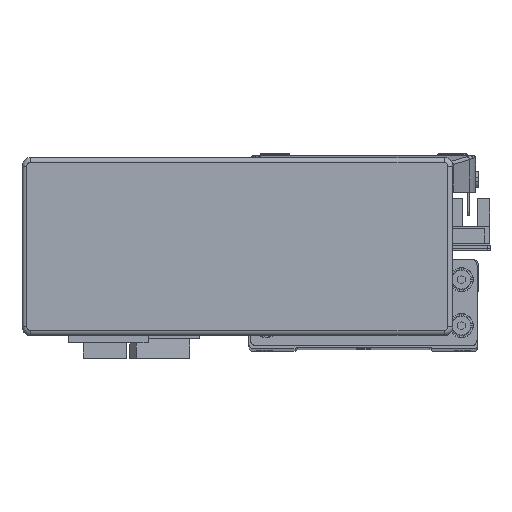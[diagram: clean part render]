
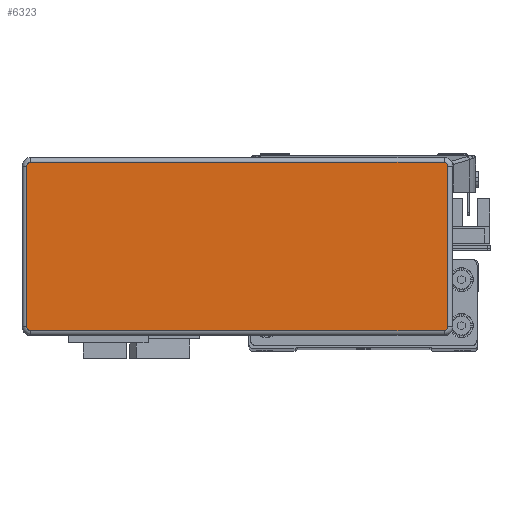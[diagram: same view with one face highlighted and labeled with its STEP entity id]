
A CAD part, top view. The second image highlights one B-rep face of the part: STEP entity #6323.
In plain terms, the highlighted planar face has unit normal (0, 0, 1) as drawn and (0, 0, -1) by its records, which use the part's own axes.
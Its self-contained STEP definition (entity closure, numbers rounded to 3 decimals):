
#3992 = AXIS2_PLACEMENT_3D ( 'NONE', #9674, #9667, #9664 ) ;
#6323 = ADVANCED_FACE ( 'NONE', ( #14448 ), #9675, .F. ) ;
#9664 = DIRECTION ( 'NONE',  ( 1., 0., 0. ) ) ;
#9667 = DIRECTION ( 'NONE',  ( 0., 0., 1. ) ) ;
#9674 = CARTESIAN_POINT ( 'NONE',  ( 71.995, -27.995, -32.2 ) ) ;
#9675 = PLANE ( 'NONE',  #3992 ) ;
#14448 = FACE_OUTER_BOUND ( 'NONE', #24002, .T. ) ;
#16066 = CARTESIAN_POINT ( 'NONE',  ( 73.295, -27.995, -32.2 ) ) ;
#16088 = DIRECTION ( 'NONE',  ( 0., -1., 0. ) ) ;
#16117 = CARTESIAN_POINT ( 'NONE',  ( -73.295, -27.995, -32.2 ) ) ;
#16131 = CARTESIAN_POINT ( 'NONE',  ( 71.995, -27.995, -32.2 ) ) ;
#16134 = DIRECTION ( 'NONE',  ( 0., 0., -1. ) ) ;
#16139 = DIRECTION ( 'NONE',  ( 1., 0., 0. ) ) ;
#16146 = DIRECTION ( 'NONE',  ( 0., 1., 0. ) ) ;
#16152 = DIRECTION ( 'NONE',  ( 0., 0., -1. ) ) ;
#16157 = DIRECTION ( 'NONE',  ( 0., 0., -1. ) ) ;
#16165 = CARTESIAN_POINT ( 'NONE',  ( -71.995, -27.995, -32.2 ) ) ;
#16166 = DIRECTION ( 'NONE',  ( -1., 0., 0. ) ) ;
#16173 = CARTESIAN_POINT ( 'NONE',  ( 71.995, 27.995, -32.2 ) ) ;
#16176 = DIRECTION ( 'NONE',  ( 1., 0., 0. ) ) ;
#16187 = DIRECTION ( 'NONE',  ( 1., 0., 0. ) ) ;
#16188 = CARTESIAN_POINT ( 'NONE',  ( 71.995, -29.295, -32.2 ) ) ;
#16240 = DIRECTION ( 'NONE',  ( 1., 0., 0. ) ) ;
#16252 = DIRECTION ( 'NONE',  ( 0., 0., -1. ) ) ;
#16253 = CARTESIAN_POINT ( 'NONE',  ( 71.995, 29.295, -32.2 ) ) ;
#16261 = DIRECTION ( 'NONE',  ( 1., 0., 0. ) ) ;
#16263 = CARTESIAN_POINT ( 'NONE',  ( -71.995, 27.995, -32.2 ) ) ;
#16597 = LINE ( 'NONE', #16066, #16626 ) ;
#16626 = VECTOR ( 'NONE', #16088, 1000. ) ;
#16664 = VECTOR ( 'NONE', #16146, 1000. ) ;
#16670 = LINE ( 'NONE', #16188, #16675 ) ;
#16671 = LINE ( 'NONE', #16117, #16664 ) ;
#16675 = VECTOR ( 'NONE', #16166, 1000. ) ;
#16682 = CIRCLE ( 'NONE', #28333, 1.3 ) ;
#16689 = CIRCLE ( 'NONE', #28336, 1.3 ) ;
#16702 = CIRCLE ( 'NONE', #28368, 1.3 ) ;
#16759 = LINE ( 'NONE', #16253, #16761 ) ;
#16761 = VECTOR ( 'NONE', #16240, 1000. ) ;
#16769 = CIRCLE ( 'NONE', #28416, 1.3 ) ;
#22094 = CARTESIAN_POINT ( 'NONE',  ( -73.295, 27.995, -32.2 ) ) ;
#22137 = CARTESIAN_POINT ( 'NONE',  ( 71.995, 29.295, -32.2 ) ) ;
#22160 = CARTESIAN_POINT ( 'NONE',  ( 73.295, 27.995, -32.2 ) ) ;
#22173 = CARTESIAN_POINT ( 'NONE',  ( -71.995, -29.295, -32.2 ) ) ;
#22177 = CARTESIAN_POINT ( 'NONE',  ( 71.995, -29.295, -32.2 ) ) ;
#22181 = CARTESIAN_POINT ( 'NONE',  ( -73.295, -27.995, -32.2 ) ) ;
#22200 = CARTESIAN_POINT ( 'NONE',  ( 73.295, -27.995, -32.2 ) ) ;
#22203 = CARTESIAN_POINT ( 'NONE',  ( -71.995, 29.295, -32.2 ) ) ;
#24002 = EDGE_LOOP ( 'NONE', ( #26030, #26060, #26064, #26058, #26068, #26080, #26073, #26084 ) ) ;
#26030 = ORIENTED_EDGE ( 'NONE', *, *, #40460, .T. ) ;
#26058 = ORIENTED_EDGE ( 'NONE', *, *, #40497, .T. ) ;
#26060 = ORIENTED_EDGE ( 'NONE', *, *, #40478, .T. ) ;
#26064 = ORIENTED_EDGE ( 'NONE', *, *, #40488, .T. ) ;
#26068 = ORIENTED_EDGE ( 'NONE', *, *, #40486, .T. ) ;
#26073 = ORIENTED_EDGE ( 'NONE', *, *, #40517, .T. ) ;
#26080 = ORIENTED_EDGE ( 'NONE', *, *, #40520, .T. ) ;
#26084 = ORIENTED_EDGE ( 'NONE', *, *, #40485, .T. ) ;
#28333 = AXIS2_PLACEMENT_3D ( 'NONE', #16131, #16134, #16139 ) ;
#28336 = AXIS2_PLACEMENT_3D ( 'NONE', #16173, #16157, #16176 ) ;
#28368 = AXIS2_PLACEMENT_3D ( 'NONE', #16165, #16152, #16187 ) ;
#28416 = AXIS2_PLACEMENT_3D ( 'NONE', #16263, #16252, #16261 ) ;
#40460 = EDGE_CURVE ( 'NONE', #42902, #42866, #16597, .T. ) ;
#40478 = EDGE_CURVE ( 'NONE', #42866, #42891, #16682, .T. ) ;
#40485 = EDGE_CURVE ( 'NONE', #42759, #42902, #16689, .T. ) ;
#40486 = EDGE_CURVE ( 'NONE', #42851, #42765, #16671, .T. ) ;
#40488 = EDGE_CURVE ( 'NONE', #42891, #42885, #16670, .T. ) ;
#40497 = EDGE_CURVE ( 'NONE', #42885, #42851, #16702, .T. ) ;
#40517 = EDGE_CURVE ( 'NONE', #42931, #42759, #16759, .T. ) ;
#40520 = EDGE_CURVE ( 'NONE', #42765, #42931, #16769, .T. ) ;
#42759 = VERTEX_POINT ( 'NONE', #22137 ) ;
#42765 = VERTEX_POINT ( 'NONE', #22094 ) ;
#42851 = VERTEX_POINT ( 'NONE', #22181 ) ;
#42866 = VERTEX_POINT ( 'NONE', #22200 ) ;
#42885 = VERTEX_POINT ( 'NONE', #22173 ) ;
#42891 = VERTEX_POINT ( 'NONE', #22177 ) ;
#42902 = VERTEX_POINT ( 'NONE', #22160 ) ;
#42931 = VERTEX_POINT ( 'NONE', #22203 ) ;
